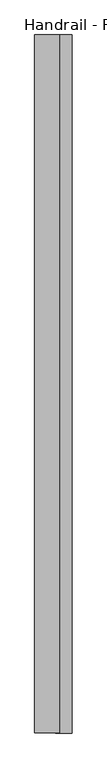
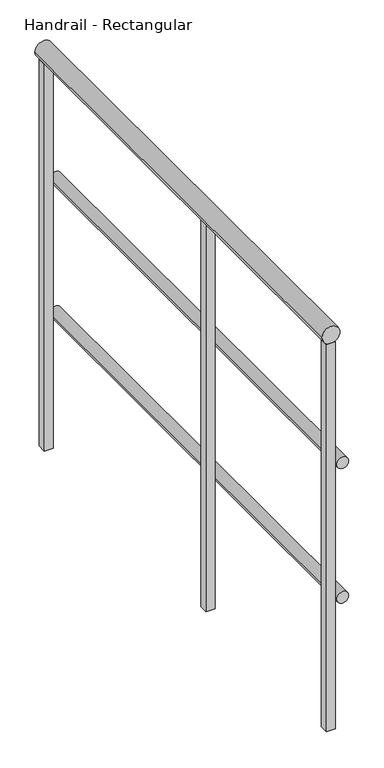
"""IFC4 building model written with IfcOpenShell, lengths in millimetres: railing geometry, Handrail - Rectangular."""

from ifc_helpers import new_model, si_unit, point, frame, frame_2d, origin, place, context, project, spatial, polyline, circle_curve, trimmed, segment, composite_curve, outline, extrude, source, transform, mapped, element, save


def handrail_rectangular_03016c17(model_context):
    return source(origin(), model_context, "Body", "SweptSolid", [
        extrude(outline(composite_curve([segment(trimmed(circle_curve(frame_2d((3644.9, 2322.5410437)), 12.7), [point((3644.9, 2335.2410437))], [point((3644.9, 2309.8410437))], False, "CARTESIAN"), True, "CONTINUOUS"), segment(trimmed(circle_curve(frame_2d((3644.9, 2322.5410437)), 12.7), [point((3644.9, 2309.8410437))], [point((3644.9, 2335.2410437))], False, "CARTESIAN"), True, "CONTINUOUS")], self_intersect=False)), frame((0.0, 10674.8316867, 0.0), z_axis=(0.0, 1.0, 0.0), x_axis=(0.0, 0.0, 1.0)), (0.0, 0.0, 1.0), 1066.8),
        extrude(outline(composite_curve([segment(trimmed(circle_curve(frame_2d((3340.1, 2322.5410437)), 12.7), [point((3340.1, 2335.2410437))], [point((3340.1, 2309.8410437))], False, "CARTESIAN"), True, "CONTINUOUS"), segment(trimmed(circle_curve(frame_2d((3340.1, 2322.5410437)), 12.7), [point((3340.1, 2309.8410437))], [point((3340.1, 2335.2410437))], False, "CARTESIAN"), True, "CONTINUOUS")], self_intersect=False)), frame((0.0, 10674.8316867, 0.0), z_axis=(0.0, 1.0, 0.0), x_axis=(0.0, 0.0, 1.0)), (0.0, 0.0, 1.0), 1066.8),
        extrude(outline(composite_curve([segment(trimmed(circle_curve(frame_2d((3943.35, 2297.1410437)), 19.05), [point((3943.35, 2316.1910437))], [point((3943.35, 2278.0910437))], False, "CARTESIAN"), True, "CONTINUOUS"), segment(trimmed(circle_curve(frame_2d((3943.35, 2297.1410437)), 19.05), [point((3943.35, 2278.0910437))], [point((3943.35, 2316.1910437))], False, "CARTESIAN"), True, "CONTINUOUS")], self_intersect=False)), frame((0.0, 10674.8316867, 0.0), z_axis=(0.0, 1.0, 0.0), x_axis=(0.0, 0.0, 1.0)), (0.0, 0.0, 1.0), 1066.8),
        extrude(outline(polyline([(2287.6160437, 11141.5566867), (2306.6660437, 11141.5566867), (2306.6660437, 11122.5066867), (2287.6160437, 11122.5066867), (2287.6160437, 11141.5566867)])), frame((0.0, 0.0, 3048.0), z_axis=(0.0, 0.0, 1.0), x_axis=(1.0, 0.0, 0.0)), (0.0, 0.0, 1.0), 876.3),
        extrude(outline(polyline([(2287.6160437, 10693.8816867), (2306.6660437, 10693.8816867), (2306.6660437, 10674.8316867), (2287.6160437, 10674.8316867), (2287.6160437, 10693.8816867)])), frame((0.0, 0.0, 3048.0), z_axis=(0.0, 0.0, 1.0), x_axis=(1.0, 0.0, 0.0)), (0.0, 0.0, 1.0), 876.3),
        extrude(outline(polyline([(2287.6160437, 11741.6316867), (2306.6660437, 11741.6316867), (2306.6660437, 11722.5816867), (2287.6160437, 11722.5816867), (2287.6160437, 11741.6316867)])), frame((0.0, 0.0, 3048.0), z_axis=(0.0, 0.0, 1.0), x_axis=(1.0, 0.0, 0.0)), (0.0, 0.0, 1.0), 876.3),
    ])


if __name__ == "__main__":
    model = new_model("IFC4")
    model_context = context("Model", 3, world=origin())
    ifc_project = project(units=[si_unit("LENGTHUNIT", "METRE", prefix="MILLI")], contexts=[model_context])
    site = spatial("IfcSite", under=ifc_project)
    building = spatial("IfcBuilding", under=site)
    placement = place(None, origin())
    handrail_rectangular_shape = handrail_rectangular_03016c17(model_context)
    element("IfcRailing", 1, ObjectType="Handrail - Rectangular", at=placement, inside=building, context=model_context, shape_type="MappedRepresentation", body=[
        mapped(handrail_rectangular_shape, transform((0.0, 0.0, 0.0), x_axis=(1.0, 0.0, 0.0), y_axis=(0.0, 1.0, 0.0), z_axis=(0.0, 0.0, 1.0))),
    ])
    save(model, "model.ifc")
